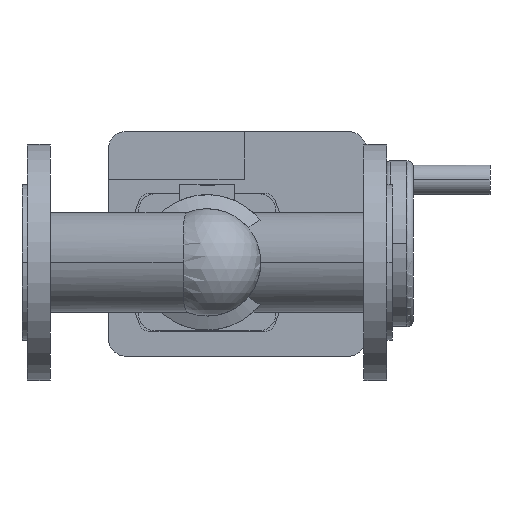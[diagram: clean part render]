
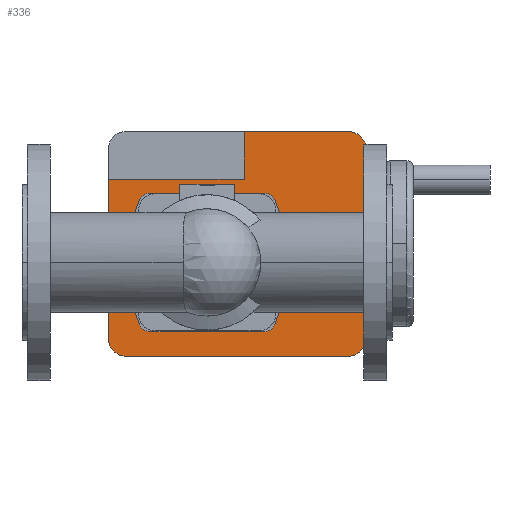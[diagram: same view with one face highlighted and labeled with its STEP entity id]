
A CAD part, front view. The second image highlights one B-rep face of the part: STEP entity #336.
In plain terms, the highlighted planar face has unit normal (0, -1, 0).
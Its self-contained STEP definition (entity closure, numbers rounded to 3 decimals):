
#336 = ADVANCED_FACE( '', ( #812, #813 ), #814, .F. );
#812 = FACE_BOUND( '', #1289, .T. );
#813 = FACE_OUTER_BOUND( '', #1290, .T. );
#814 = PLANE( '', #1291 );
#1289 = EDGE_LOOP( '', ( #2978, #2979, #2980, #2981, #2982, #2983, #2984, #2985 ) );
#1290 = EDGE_LOOP( '', ( #2986, #2987, #2988, #2989, #2990, #2991, #2992, #2993, #2994 ) );
#1291 = AXIS2_PLACEMENT_3D( '', #2995, #2996, #2997 );
#2978 = ORIENTED_EDGE( '', *, *, #3475, .T. );
#2979 = ORIENTED_EDGE( '', *, *, #3479, .T. );
#2980 = ORIENTED_EDGE( '', *, *, #3482, .T. );
#2981 = ORIENTED_EDGE( '', *, *, #3485, .T. );
#2982 = ORIENTED_EDGE( '', *, *, #3488, .T. );
#2983 = ORIENTED_EDGE( '', *, *, #3491, .T. );
#2984 = ORIENTED_EDGE( '', *, *, #3494, .T. );
#2985 = ORIENTED_EDGE( '', *, *, #3496, .T. );
#2986 = ORIENTED_EDGE( '', *, *, #3503, .T. );
#2987 = ORIENTED_EDGE( '', *, *, #3510, .F. );
#2988 = ORIENTED_EDGE( '', *, *, #3518, .F. );
#2989 = ORIENTED_EDGE( '', *, *, #3521, .F. );
#2990 = ORIENTED_EDGE( '', *, *, #3524, .F. );
#2991 = ORIENTED_EDGE( '', *, *, #3527, .F. );
#2992 = ORIENTED_EDGE( '', *, *, #3529, .F. );
#2993 = ORIENTED_EDGE( '', *, *, #3513, .F. );
#2994 = ORIENTED_EDGE( '', *, *, #3506, .T. );
#2995 = CARTESIAN_POINT( '', ( 145., 641.5, 0. ) );
#2996 = DIRECTION( '', ( 0., 1., 0. ) );
#2997 = DIRECTION( '', ( 0., 0., 1. ) );
#3475 = EDGE_CURVE( '', #4327, #4325, #4328, .T. );
#3479 = EDGE_CURVE( '', #4325, #4332, #4334, .T. );
#3482 = EDGE_CURVE( '', #4332, #4337, #4339, .T. );
#3485 = EDGE_CURVE( '', #4337, #4342, #4344, .T. );
#3488 = EDGE_CURVE( '', #4342, #4347, #4349, .T. );
#3491 = EDGE_CURVE( '', #4347, #4352, #4354, .T. );
#3494 = EDGE_CURVE( '', #4352, #4357, #4359, .T. );
#3496 = EDGE_CURVE( '', #4357, #4327, #4361, .T. );
#3503 = EDGE_CURVE( '', #4374, #4372, #4375, .T. );
#3506 = EDGE_CURVE( '', #4377, #4374, #4379, .T. );
#3510 = EDGE_CURVE( '', #4384, #4372, #4386, .T. );
#3513 = EDGE_CURVE( '', #4377, #4390, #4391, .T. );
#3518 = EDGE_CURVE( '', #4397, #4384, #4399, .T. );
#3521 = EDGE_CURVE( '', #4402, #4397, #4404, .T. );
#3524 = EDGE_CURVE( '', #4407, #4402, #4409, .T. );
#3527 = EDGE_CURVE( '', #4412, #4407, #4414, .T. );
#3529 = EDGE_CURVE( '', #4390, #4412, #4416, .T. );
#4325 = VERTEX_POINT( '', #5989 );
#4327 = VERTEX_POINT( '', #5992 );
#4328 = CIRCLE( '', #5993, 9. );
#4332 = VERTEX_POINT( '', #5999 );
#4334 = LINE( '', #6002, #6003 );
#4337 = VERTEX_POINT( '', #6006 );
#4339 = CIRCLE( '', #6009, 9. );
#4342 = VERTEX_POINT( '', #6012 );
#4344 = CIRCLE( '', #6015, 116. );
#4347 = VERTEX_POINT( '', #6018 );
#4349 = CIRCLE( '', #6021, 9. );
#4352 = VERTEX_POINT( '', #6025 );
#4354 = LINE( '', #6028, #6029 );
#4357 = VERTEX_POINT( '', #6032 );
#4359 = CIRCLE( '', #6035, 9. );
#4361 = CIRCLE( '', #6037, 116. );
#4372 = VERTEX_POINT( '', #6052 );
#4374 = VERTEX_POINT( '', #6055 );
#4375 = LINE( '', #6056, #6057 );
#4377 = VERTEX_POINT( '', #6060 );
#4379 = LINE( '', #6063, #6064 );
#4384 = VERTEX_POINT( '', #6071 );
#4386 = LINE( '', #6074, #6075 );
#4390 = VERTEX_POINT( '', #6080 );
#4391 = LINE( '', #6081, #6082 );
#4397 = VERTEX_POINT( '', #6090 );
#4399 = CIRCLE( '', #6093, 14. );
#4402 = VERTEX_POINT( '', #6097 );
#4404 = LINE( '', #6100, #6101 );
#4407 = VERTEX_POINT( '', #6104 );
#4409 = CIRCLE( '', #6107, 14. );
#4412 = VERTEX_POINT( '', #6111 );
#4414 = LINE( '', #6114, #6115 );
#4416 = CIRCLE( '', #6117, 14. );
#5989 = CARTESIAN_POINT( '', ( 100.216, 641.5, 54.2 ) );
#5992 = CARTESIAN_POINT( '', ( 92.058, 641.5, 49.002 ) );
#5993 = AXIS2_PLACEMENT_3D( '', #7015, #7016, #7017 );
#5999 = CARTESIAN_POINT( '', ( 189.784, 641.5, 54.2 ) );
#6002 = CARTESIAN_POINT( '', ( 122.608, 641.5, 54.2 ) );
#6003 = VECTOR( '', #7021, 1. );
#6006 = CARTESIAN_POINT( '', ( 197.942, 641.5, 49.002 ) );
#6009 = AXIS2_PLACEMENT_3D( '', #7026, #7027, #7028 );
#6012 = CARTESIAN_POINT( '', ( 197.942, 641.5, -49.002 ) );
#6015 = AXIS2_PLACEMENT_3D( '', #7033, #7034, #7035 );
#6018 = CARTESIAN_POINT( '', ( 189.784, 641.5, -54.2 ) );
#6021 = AXIS2_PLACEMENT_3D( '', #7040, #7041, #7042 );
#6025 = CARTESIAN_POINT( '', ( 100.216, 641.5, -54.2 ) );
#6028 = CARTESIAN_POINT( '', ( 145., 641.5, -54.2 ) );
#6029 = VECTOR( '', #7045, 1. );
#6032 = CARTESIAN_POINT( '', ( 92.058, 641.5, -49.002 ) );
#6035 = AXIS2_PLACEMENT_3D( '', #7050, #7051, #7052 );
#6037 = AXIS2_PLACEMENT_3D( '', #7056, #7057, #7058 );
#6052 = CARTESIAN_POINT( '', ( 67.5, 641.5, 65. ) );
#6055 = CARTESIAN_POINT( '', ( 174., 641.5, 65. ) );
#6056 = CARTESIAN_POINT( '', ( 105.75, 641.5, 65. ) );
#6057 = VECTOR( '', #7067, 1. );
#6060 = CARTESIAN_POINT( '', ( 174., 641.5, 102.5 ) );
#6063 = CARTESIAN_POINT( '', ( 174., 641.5, 32.5 ) );
#6064 = VECTOR( '', #7070, 1. );
#6071 = CARTESIAN_POINT( '', ( 67.5, 641.5, -59.5 ) );
#6074 = CARTESIAN_POINT( '', ( 67.5, 641.5, -59.5 ) );
#6075 = VECTOR( '', #7074, 1. );
#6080 = CARTESIAN_POINT( '', ( 255.5, 641.5, 102.5 ) );
#6081 = CARTESIAN_POINT( '', ( 81.5, 641.5, 102.5 ) );
#6082 = VECTOR( '', #7079, 1. );
#6090 = CARTESIAN_POINT( '', ( 81.5, 641.5, -73.5 ) );
#6093 = AXIS2_PLACEMENT_3D( '', #7086, #7087, #7088 );
#6097 = CARTESIAN_POINT( '', ( 255.5, 641.5, -73.5 ) );
#6100 = CARTESIAN_POINT( '', ( 255.5, 641.5, -73.5 ) );
#6101 = VECTOR( '', #7091, 1. );
#6104 = CARTESIAN_POINT( '', ( 269.5, 641.5, -59.5 ) );
#6107 = AXIS2_PLACEMENT_3D( '', #7096, #7097, #7098 );
#6111 = CARTESIAN_POINT( '', ( 269.5, 641.5, 88.5 ) );
#6114 = CARTESIAN_POINT( '', ( 269.5, 641.5, 88.5 ) );
#6115 = VECTOR( '', #7101, 1. );
#6117 = AXIS2_PLACEMENT_3D( '', #7105, #7106, #7107 );
#7015 = CARTESIAN_POINT( '', ( 100.216, 641.5, 45.2 ) );
#7016 = DIRECTION( '', ( 0., 1., 0. ) );
#7017 = DIRECTION( '', ( -0.906, 0., 0.422 ) );
#7021 = DIRECTION( '', ( 1., 0., 0. ) );
#7026 = CARTESIAN_POINT( '', ( 189.784, 641.5, 45.2 ) );
#7027 = DIRECTION( '', ( 0., 1., 0. ) );
#7028 = DIRECTION( '', ( 0., 0., 1. ) );
#7033 = CARTESIAN_POINT( '', ( 92.8, 641.5, 0. ) );
#7034 = DIRECTION( '', ( 0., 1., 0. ) );
#7035 = DIRECTION( '', ( 0.906, 0., 0.422 ) );
#7040 = CARTESIAN_POINT( '', ( 189.784, 641.5, -45.2 ) );
#7041 = DIRECTION( '', ( 0., 1., 0. ) );
#7042 = DIRECTION( '', ( 0.906, 0., -0.422 ) );
#7045 = DIRECTION( '', ( -1., 0., 0. ) );
#7050 = CARTESIAN_POINT( '', ( 100.216, 641.5, -45.2 ) );
#7051 = DIRECTION( '', ( 0., 1., 0. ) );
#7052 = DIRECTION( '', ( 0., 0., -1. ) );
#7056 = CARTESIAN_POINT( '', ( 197.2, 641.5, 0. ) );
#7057 = DIRECTION( '', ( 0., 1., 0. ) );
#7058 = DIRECTION( '', ( -0.906, 0., -0.422 ) );
#7067 = DIRECTION( '', ( -1., 0., 0. ) );
#7070 = DIRECTION( '', ( 0., 0., -1. ) );
#7074 = DIRECTION( '', ( 0., 0., 1. ) );
#7079 = DIRECTION( '', ( 1., 0., 0. ) );
#7086 = CARTESIAN_POINT( '', ( 81.5, 641.5, -59.5 ) );
#7087 = DIRECTION( '', ( 0., 1., 0. ) );
#7088 = DIRECTION( '', ( 0., 0., -1. ) );
#7091 = DIRECTION( '', ( -1., 0., 0. ) );
#7096 = CARTESIAN_POINT( '', ( 255.5, 641.5, -59.5 ) );
#7097 = DIRECTION( '', ( 0., 1., 0. ) );
#7098 = DIRECTION( '', ( 1., 0., 0. ) );
#7101 = DIRECTION( '', ( 0., 0., -1. ) );
#7105 = CARTESIAN_POINT( '', ( 255.5, 641.5, 88.5 ) );
#7106 = DIRECTION( '', ( 0., 1., 0. ) );
#7107 = DIRECTION( '', ( 0., 0., 1. ) );
